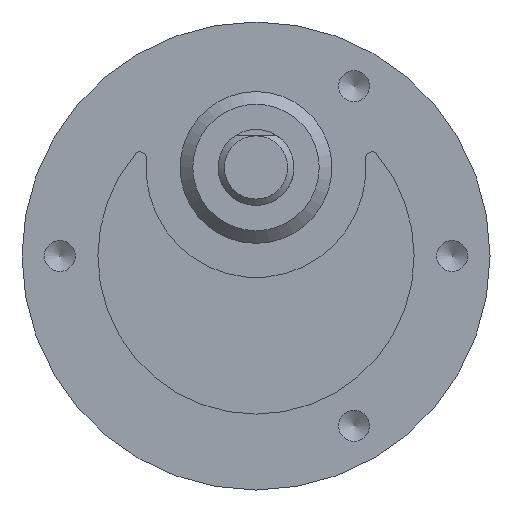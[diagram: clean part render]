
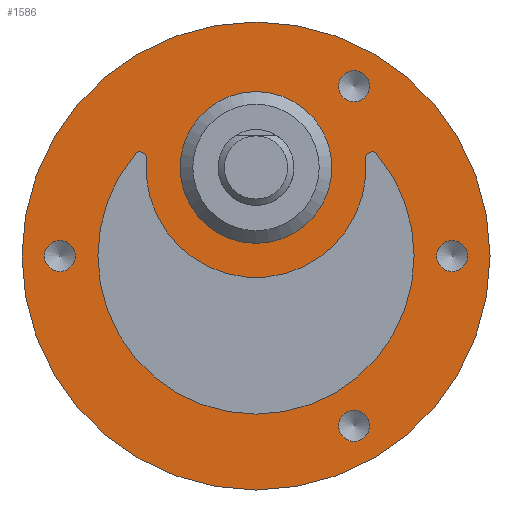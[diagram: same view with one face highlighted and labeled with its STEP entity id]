
A CAD part, front view. The second image highlights one B-rep face of the part: STEP entity #1586.
In plain terms, the highlighted planar face has unit normal (0, -1, 0).
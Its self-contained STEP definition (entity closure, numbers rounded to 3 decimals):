
#1050=CARTESIAN_POINT('',(6.,-1.4,7.));
#1051=VERTEX_POINT('',#1050);
#1052=CARTESIAN_POINT('',(0.0,-1.4,7.));
#1053=DIRECTION('',(0.0,1.0,0.0));
#1054=DIRECTION('',(-1.0,0.0,0.0));
#1055=AXIS2_PLACEMENT_3D('',#1052,#1053,#1054);
#1056=CIRCLE('',#1055,6.);
#1057=EDGE_CURVE('',#1051,#1051,#1056,.T.);
#1141=CARTESIAN_POINT('',(16.73,-1.4,0.0));
#1142=VERTEX_POINT('',#1141);
#1143=CARTESIAN_POINT('',(15.5,-1.4,0.0));
#1144=DIRECTION('',(0.0,1.0,0.0));
#1145=DIRECTION('',(1.0,0.0,0.0));
#1146=AXIS2_PLACEMENT_3D('',#1143,#1144,#1145);
#1147=CIRCLE('',#1146,1.23);
#1148=EDGE_CURVE('',#1142,#1142,#1147,.T.);
#1220=CARTESIAN_POINT('',(-14.27,-1.4,0.0));
#1221=VERTEX_POINT('',#1220);
#1222=CARTESIAN_POINT('',(-15.5,-1.4,0.0));
#1223=DIRECTION('',(0.0,1.0,0.0));
#1224=DIRECTION('',(1.0,0.0,0.0));
#1225=AXIS2_PLACEMENT_3D('',#1222,#1223,#1224);
#1226=CIRCLE('',#1225,1.23);
#1227=EDGE_CURVE('',#1221,#1221,#1226,.T.);
#1299=CARTESIAN_POINT('',(8.979,-1.4,13.423));
#1300=VERTEX_POINT('',#1299);
#1301=CARTESIAN_POINT('',(7.75,-1.4,13.423));
#1302=DIRECTION('',(0.0,1.0,0.0));
#1303=DIRECTION('',(1.0,0.0,0.0));
#1304=AXIS2_PLACEMENT_3D('',#1301,#1302,#1303);
#1305=CIRCLE('',#1304,1.23);
#1306=EDGE_CURVE('',#1300,#1300,#1305,.T.);
#1378=CARTESIAN_POINT('',(8.979,-1.4,-13.423));
#1379=VERTEX_POINT('',#1378);
#1380=CARTESIAN_POINT('',(7.75,-1.4,-13.423));
#1381=DIRECTION('',(0.0,1.0,0.0));
#1382=DIRECTION('',(1.0,0.0,0.0));
#1383=AXIS2_PLACEMENT_3D('',#1380,#1381,#1382);
#1384=CIRCLE('',#1383,1.23);
#1385=EDGE_CURVE('',#1379,#1379,#1384,.T.);
#1409=CARTESIAN_POINT('',(-9.552,-1.4,8.063));
#1410=VERTEX_POINT('',#1409);
#1417=CARTESIAN_POINT('',(9.552,-1.4,8.063));
#1418=VERTEX_POINT('',#1417);
#1419=CARTESIAN_POINT('',(0.0,-1.4,0.0));
#1420=DIRECTION('',(0.0,1.0,0.0));
#1421=DIRECTION('',(0.764,0.0,-0.645));
#1422=AXIS2_PLACEMENT_3D('',#1419,#1420,#1421);
#1423=CIRCLE('',#1422,12.5);
#1424=EDGE_CURVE('',#1418,#1410,#1423,.T.);
#1450=CARTESIAN_POINT('',(8.672,-1.4,7.7));
#1451=VERTEX_POINT('',#1450);
#1452=CARTESIAN_POINT('',(9.17,-1.4,7.74));
#1453=DIRECTION('',(0.0,1.,0.0));
#1454=DIRECTION('',(-0.764,0.0,-0.645));
#1455=AXIS2_PLACEMENT_3D('',#1452,#1453,#1454);
#1456=CIRCLE('',#1455,0.5);
#1457=EDGE_CURVE('',#1451,#1418,#1456,.T.);
#1483=CARTESIAN_POINT('',(-8.672,-1.4,7.7));
#1484=VERTEX_POINT('',#1483);
#1485=CARTESIAN_POINT('',(0.0,-1.4,7.));
#1486=DIRECTION('',(0.0,-1.,0.0));
#1487=DIRECTION('',(-0.997,0.0,0.08));
#1488=AXIS2_PLACEMENT_3D('',#1485,#1486,#1487);
#1489=CIRCLE('',#1488,8.7);
#1490=EDGE_CURVE('',#1484,#1451,#1489,.T.);
#1514=CARTESIAN_POINT('',(-9.17,-1.4,7.74));
#1515=DIRECTION('',(0.0,1.0,0.0));
#1516=DIRECTION('',(-0.997,0.0,0.08));
#1517=AXIS2_PLACEMENT_3D('',#1514,#1515,#1516);
#1518=CIRCLE('',#1517,0.5);
#1519=EDGE_CURVE('',#1410,#1484,#1518,.T.);
#1545=CARTESIAN_POINT('',(-18.5,-1.4,0.));
#1546=VERTEX_POINT('',#1545);
#1547=CARTESIAN_POINT('',(0.0,-1.4,0.0));
#1548=DIRECTION('',(0.0,-1.0,0.0));
#1549=DIRECTION('',(1.0,0.0,0.0));
#1550=AXIS2_PLACEMENT_3D('',#1547,#1548,#1549);
#1551=CIRCLE('',#1550,18.5);
#1552=EDGE_CURVE('',#1546,#1546,#1551,.T.);
#1557=CARTESIAN_POINT('',(0.0,-1.4,0.0));
#1558=DIRECTION('',(0.0,-1.0,0.0));
#1559=DIRECTION('',(0.0,0.0,-1.0));
#1560=AXIS2_PLACEMENT_3D('',#1557,#1558,#1559);
#1561=PLANE('',#1560);
#1562=ORIENTED_EDGE('',*,*,#1552,.T.);
#1563=EDGE_LOOP('',(#1562));
#1564=FACE_OUTER_BOUND('',#1563,.T.);
#1565=ORIENTED_EDGE('',*,*,#1148,.T.);
#1566=EDGE_LOOP('',(#1565));
#1567=FACE_BOUND('',#1566,.T.);
#1568=ORIENTED_EDGE('',*,*,#1227,.T.);
#1569=EDGE_LOOP('',(#1568));
#1570=FACE_BOUND('',#1569,.T.);
#1571=ORIENTED_EDGE('',*,*,#1306,.T.);
#1572=EDGE_LOOP('',(#1571));
#1573=FACE_BOUND('',#1572,.T.);
#1574=ORIENTED_EDGE('',*,*,#1385,.T.);
#1575=EDGE_LOOP('',(#1574));
#1576=FACE_BOUND('',#1575,.T.);
#1577=ORIENTED_EDGE('',*,*,#1424,.T.);
#1578=ORIENTED_EDGE('',*,*,#1519,.T.);
#1579=ORIENTED_EDGE('',*,*,#1490,.T.);
#1580=ORIENTED_EDGE('',*,*,#1457,.T.);
#1581=EDGE_LOOP('',(#1577,#1578,#1579,#1580));
#1582=FACE_BOUND('',#1581,.T.);
#1583=ORIENTED_EDGE('',*,*,#1057,.T.);
#1584=EDGE_LOOP('',(#1583));
#1585=FACE_BOUND('',#1584,.T.);
#1586=ADVANCED_FACE('',(#1564,#1567,#1570,#1573,#1576,#1582,#1585),#1561,.T.);
